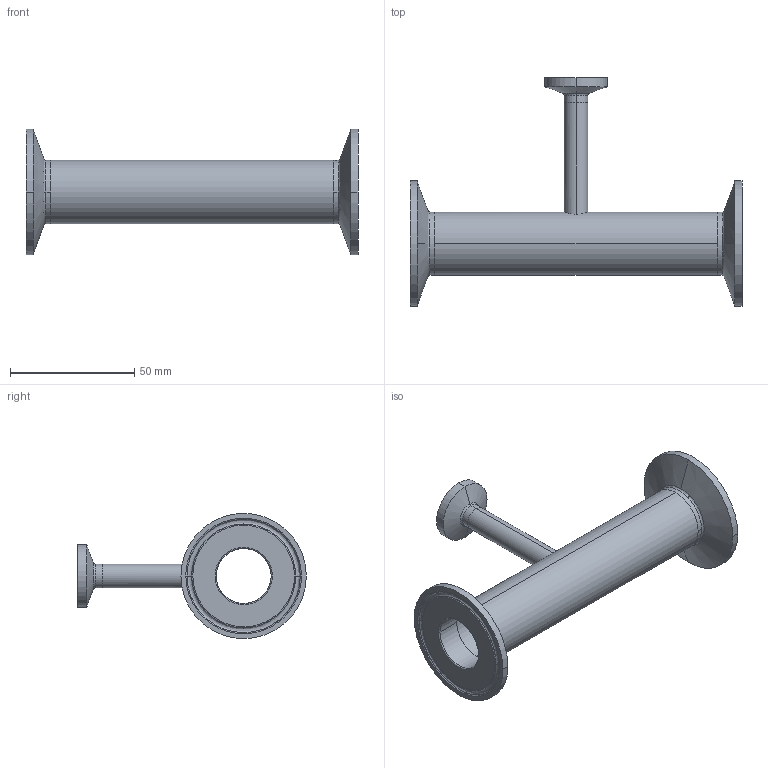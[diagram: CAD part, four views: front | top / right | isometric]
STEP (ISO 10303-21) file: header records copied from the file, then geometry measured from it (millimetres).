
FILE_DESCRIPTION (( 'STEP AP214' ), '1' );
FILE_NAME ('TEG7R6L1.0x.375-...STEP', '2016-05-24T05:52:12', ( 'eran' ), ( '' ), 'SwSTEP 2.0', 'SolidWorks 2016', '' );
FILE_SCHEMA (( 'AUTOMOTIVE_DESIGN' ));
Length unit declared in the file: millimetre
Products named in the file (1): TEG7R6L1.0x.375-..
Bounding box: 133.4 x 91.9 x 50.39 mm (x, y, z)
Volume: 33435.9 mm3; surface area: 30636.1 mm2
Topology: 4 solids, 4 shells, 84 faces, 198 edges, 126 vertices
Faces by surface type: cylinder 28, bspline 28, cone 16, plane 12
Entity records: 3761 total; most frequent: CARTESIAN_POINT 1777, DIRECTION 426, ORIENTED_EDGE 396, EDGE_CURVE 198, AXIS2_PLACEMENT_3D 191, CIRCLE 134, VERTEX_POINT 126, EDGE_LOOP 98
